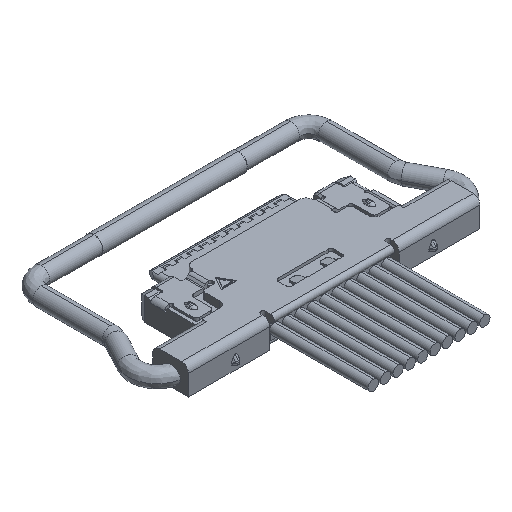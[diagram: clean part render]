
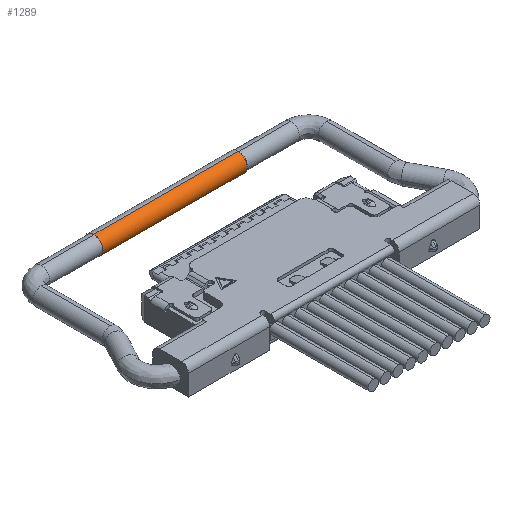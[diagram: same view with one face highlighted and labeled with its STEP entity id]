
A CAD part, isometric view. The second image highlights one B-rep face of the part: STEP entity #1289.
In plain terms, the highlighted cylindrical face has radius 0.295 mm (diameter 0.59 mm), a partial arc.
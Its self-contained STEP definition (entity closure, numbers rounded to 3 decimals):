
#521 = VERTEX_POINT ( 'NONE', #13770 ) ;
#568 = VERTEX_POINT ( 'NONE', #13809 ) ;
#788 = VERTEX_POINT ( 'NONE', #13984 ) ;
#832 = VERTEX_POINT ( 'NONE', #14030 ) ;
#1289 = ADVANCED_FACE ( 'NONE', ( #7615 ), #7621, .T. ) ;
#1687 = EDGE_LOOP ( 'NONE', ( #1971, #2511, #1787, #2506 ) ) ;
#1787 = ORIENTED_EDGE ( 'NONE', *, *, #15179, .T. ) ;
#1971 = ORIENTED_EDGE ( 'NONE', *, *, #15212, .F. ) ;
#2506 = ORIENTED_EDGE ( 'NONE', *, *, #15199, .T. ) ;
#2511 = ORIENTED_EDGE ( 'NONE', *, *, #15134, .T. ) ;
#6001 = CARTESIAN_POINT ( 'NONE',  ( -2.325, 1.525, -0.525 ) ) ;
#6002 = DIRECTION ( 'NONE',  ( 1., 0., 0. ) ) ;
#6003 = DIRECTION ( 'NONE',  ( 0., 0., -1. ) ) ;
#6111 = CARTESIAN_POINT ( 'NONE',  ( -6.325, 1.525, -0.82 ) ) ;
#6112 = DIRECTION ( 'NONE',  ( 1., 0., 0. ) ) ;
#6161 = CARTESIAN_POINT ( 'NONE',  ( 2.325, 1.525, -0.525 ) ) ;
#6162 = DIRECTION ( 'NONE',  ( -1., 0., 0. ) ) ;
#6163 = DIRECTION ( 'NONE',  ( 0., 0., -1. ) ) ;
#6188 = CARTESIAN_POINT ( 'NONE',  ( -6.325, 1.525, -0.23 ) ) ;
#6189 = DIRECTION ( 'NONE',  ( 1., 0., 0. ) ) ;
#6654 = CIRCLE ( 'NONE', #11161, 0.295 ) ;
#6722 = LINE ( 'NONE', #6111, #6725 ) ;
#6725 = VECTOR ( 'NONE', #6112, 1000. ) ;
#6753 = CIRCLE ( 'NONE', #11177, 0.295 ) ;
#6776 = LINE ( 'NONE', #6188, #6779 ) ;
#6779 = VECTOR ( 'NONE', #6189, 1000. ) ;
#7615 = FACE_OUTER_BOUND ( 'NONE', #1687, .T. ) ;
#7621 = CYLINDRICAL_SURFACE ( 'NONE', #14335, 0.295 ) ;
#8245 = DIRECTION ( 'NONE',  ( 0., 0., -1. ) ) ;
#8249 = DIRECTION ( 'NONE',  ( 1., 0., 0. ) ) ;
#8250 = CARTESIAN_POINT ( 'NONE',  ( -6.325, 1.525, -0.525 ) ) ;
#11161 = AXIS2_PLACEMENT_3D ( 'NONE', #6001, #6002, #6003 ) ;
#11177 = AXIS2_PLACEMENT_3D ( 'NONE', #6161, #6162, #6163 ) ;
#13770 = CARTESIAN_POINT ( 'NONE',  ( -2.325, 1.525, -0.82 ) ) ;
#13809 = CARTESIAN_POINT ( 'NONE',  ( -2.325, 1.525, -0.23 ) ) ;
#13984 = CARTESIAN_POINT ( 'NONE',  ( 2.325, 1.525, -0.82 ) ) ;
#14030 = CARTESIAN_POINT ( 'NONE',  ( 2.325, 1.525, -0.23 ) ) ;
#14335 = AXIS2_PLACEMENT_3D ( 'NONE', #8250, #8249, #8245 ) ;
#15134 = EDGE_CURVE ( 'NONE', #568, #521, #6654, .T. ) ;
#15179 = EDGE_CURVE ( 'NONE', #521, #788, #6722, .T. ) ;
#15199 = EDGE_CURVE ( 'NONE', #788, #832, #6753, .T. ) ;
#15212 = EDGE_CURVE ( 'NONE', #568, #832, #6776, .T. ) ;
